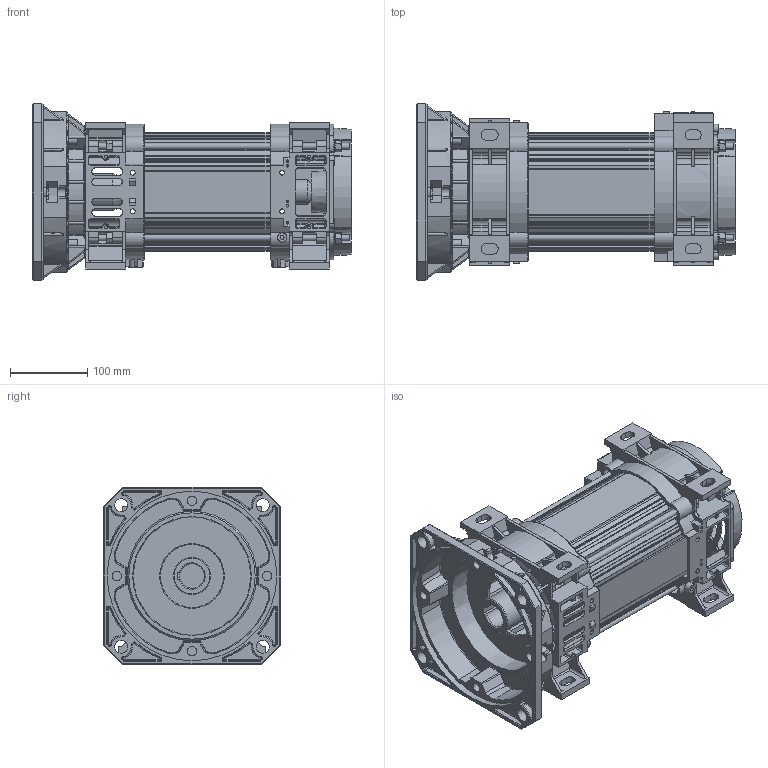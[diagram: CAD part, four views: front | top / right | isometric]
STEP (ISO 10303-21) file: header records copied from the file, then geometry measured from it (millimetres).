
FILE_DESCRIPTION(/* description */ ('Motore Tipo S46 Fl.220 F32-H185 NO Volano NO Piedi'),/* implementation_level */ '2;1');
FILE_NAME(/* name */ 'Y:\ServerTecnico\Mockup Motori x Sito Elmo\Mockup Tipo S46 Size 1 FL220 F32-H185 NO Volano.stp',/* time_stamp */ '2016-10-06T10:06:05+02:00',/* author */ ('aparmini'),/* organization */ (''),/* preprocessor_version */ 'ST-DEVELOPER v16.5',/* originating_system */ 'Autodesk Inventor 2017',/* authorisation */ '');
FILE_SCHEMA (('AUTOMOTIVE_DESIGN { 1 0 10303 214 3 1 1 }'));
Products named in the file (10): Mockup Tipo S46 Size 1 FL220 F32-H185 NO Volano; Mockup Statore Size 1 - F32-H185 NO Volano; TGS10; FA1D220NA-01-07-2015; CA1VS-DSEMI 220 01-07-2015; SEMI FA1SD220N; Mockup CP1XD040N; TI08ML325; UNI 5587 - M8; DIN 125-2 - B 8,4
Assembly tree (22 placements, depth 3):
  Mockup Tipo S46 Size 1 FL220 F32-H185 NO Volano
    Mockup Statore Size 1 - F32-H185 NO Volano
    TGS10
    FA1D220NA-01-07-2015
      CA1VS-DSEMI 220 01-07-2015
      SEMI FA1SD220N
    Mockup CP1XD040N
    UNI 5587 - M8  x8
    TI08ML325  x4
    DIN 125-2 - B 8,4  x4
Bounding box: 414 x 230 x 230 mm (x, y, z)
Volume: 5350259 mm3; surface area: 881679.9 mm2
Topology: 21 solids, 21 shells, 2712 faces, 7241 edges, 4577 vertices
Faces by surface type: plane 1098, cylinder 982, cone 289, bspline 223, torus 104, sphere 16
Full cylindrical faces by diameter (mm): 3.2 x5, 4 x8, 4.917 x2, 5 x4, 6.2 x8, 6.647 x8, 8 x4, 8.4 x4, 10 x8, 12 x8, 16 x4, 17 x5, 21 x1, 32 x2, 38 x1, 48 x1, 82 x2, 220 x1
Entity records: 86742 total; most frequent: CARTESIAN_POINT 22463, DIRECTION 13630, ORIENTED_EDGE 13446, EDGE_CURVE 6711, AXIS2_PLACEMENT_3D 5026, VERTEX_POINT 4328, LINE 3578, VECTOR 3578
